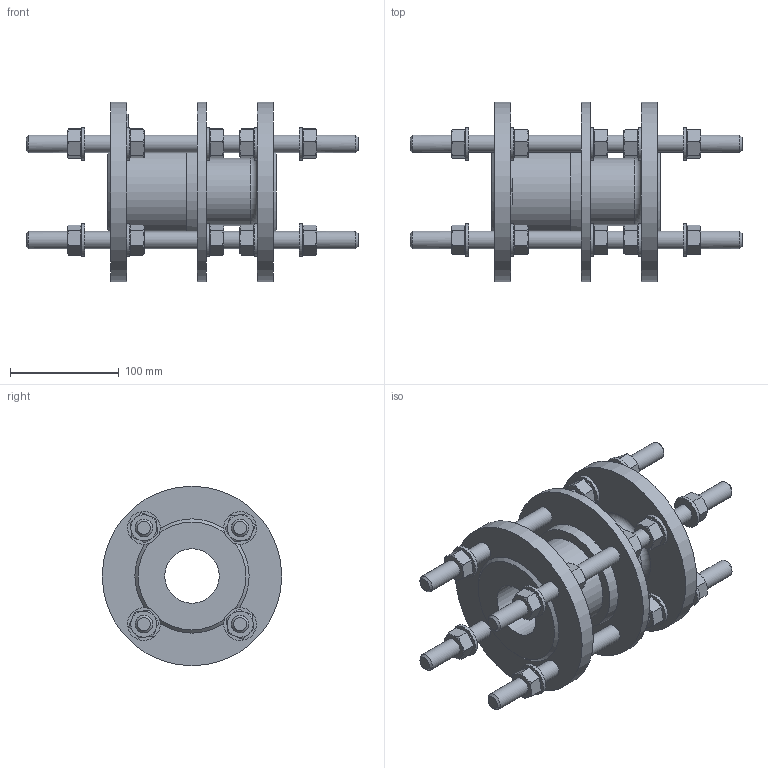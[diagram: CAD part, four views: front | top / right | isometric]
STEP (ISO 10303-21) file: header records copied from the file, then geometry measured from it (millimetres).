
FILE_DESCRIPTION (( 'STEP AP203' ), '1' );
FILE_NAME ('O_265_910_DN50_1XXXXX00_L=155_REV01.step', '2024-10-11T07:57:28', ( '' ), ( '' ), 'SwSTEP 2.0', 'SolidWorks 2022', '' );
FILE_SCHEMA (( 'CONFIG_CONTROL_DESIGN' ));
Length unit declared in the file: millimetre
Products named in the file (1): O_265_910_DN50_1XXXXX00_L=155_REV01
Bounding box: 305 x 165 x 165 mm (x, y, z)
Volume: 1354053.6 mm3; surface area: 248883.6 mm2
Topology: 1 solids, 1 shells, 548 faces, 1206 edges, 727 vertices
Faces by surface type: plane 344, cone 131, cylinder 72, torus 1
Full cylindrical faces by diameter (mm): 16 x24, 24 x20, 30 x20, 50 x1, 62 x1, 80 x1, 165 x3
Entity records: 15122 total; most frequent: CARTESIAN_POINT 3764, DIRECTION 2323, ORIENTED_EDGE 2172, EDGE_CURVE 1086, AXIS2_PLACEMENT_3D 928, EDGE_LOOP 715, VERTEX_POINT 689, FACE_OUTER_BOUND 619
